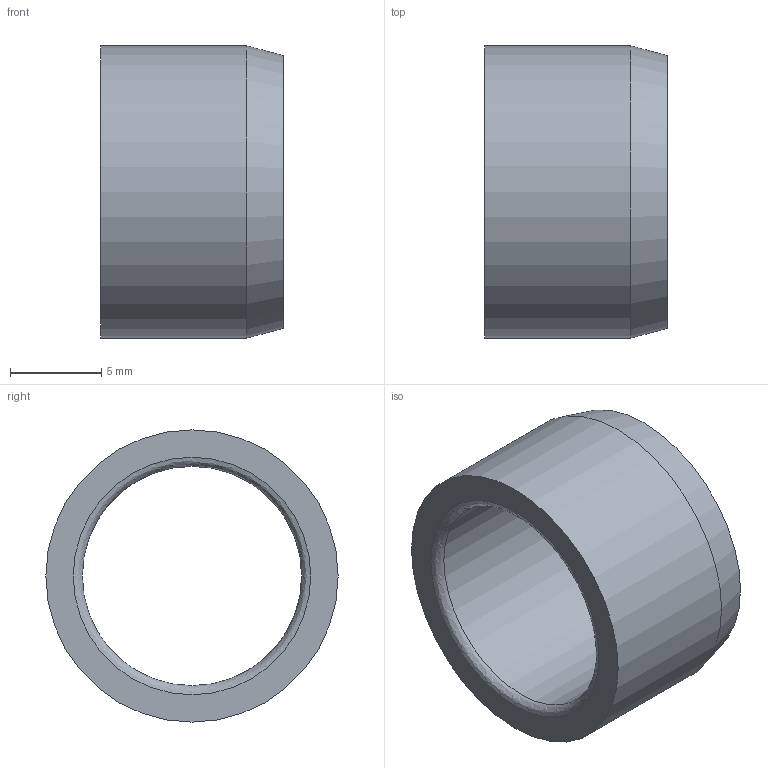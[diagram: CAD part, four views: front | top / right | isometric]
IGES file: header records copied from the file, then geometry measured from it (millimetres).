
Global section: file name: BG04.121610.ipt; native system: Autodesk Inventor 2021; preprocessor: unknown; author: SM; date: 20211217.162904; units: millimetre
Bounding box: 10 x 16 x 16 mm (x, y, z)
Volume: 849.2 mm3; surface area: 1013.6 mm2
Topology: 1 solids, 1 shells, 7 faces, 18 edges, 13 vertices
Faces by surface type: revolution 3, plane 2, cylinder 1, cone 1
Full cylindrical faces by diameter (mm): 16 x1
